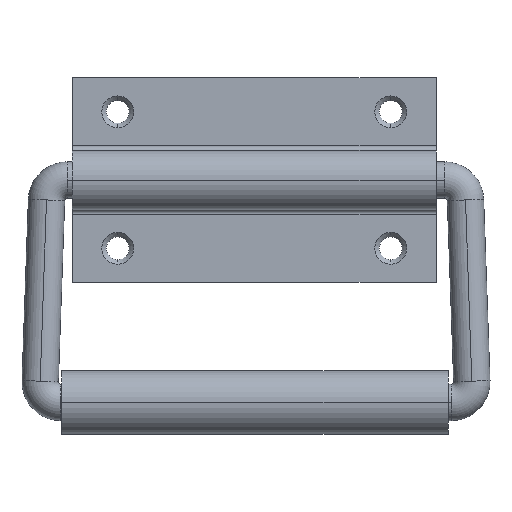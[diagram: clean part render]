
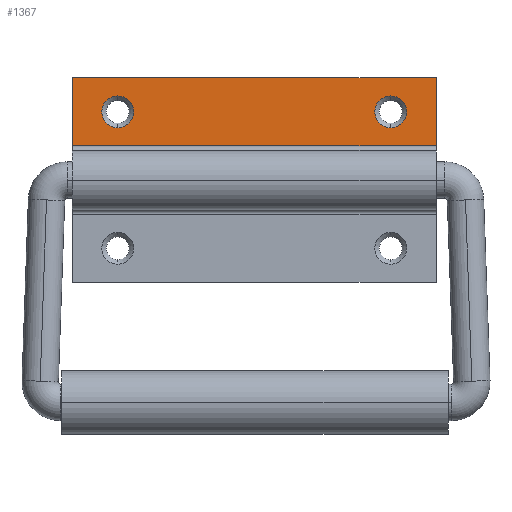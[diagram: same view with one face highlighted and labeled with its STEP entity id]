
A CAD part, left-side view. The second image highlights one B-rep face of the part: STEP entity #1367.
In plain terms, the highlighted planar face has unit normal (-1, 0, 0) as drawn and (0, 1, 0) by its records, which use the part's own axes.
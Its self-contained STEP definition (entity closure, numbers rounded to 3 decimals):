
#435=CARTESIAN_POINT('',(7.0,-88.683,23.007));
#436=VERTEX_POINT('',#435);
#444=CARTESIAN_POINT('',(7.0,-88.683,16.007));
#445=VERTEX_POINT('',#444);
#452=CARTESIAN_POINT('',(7.0,-88.683,19.507));
#453=DIRECTION('',(0.0,-1.0,0.0));
#454=DIRECTION('',(0.0,0.0,1.0));
#455=AXIS2_PLACEMENT_3D('',#452,#453,#454);
#456=CIRCLE('',#455,3.5);
#457=EDGE_CURVE('',#436,#445,#456,.T.);
#509=CARTESIAN_POINT('',(67.0,-88.683,23.007));
#510=VERTEX_POINT('',#509);
#518=CARTESIAN_POINT('',(67.0,-88.683,16.007));
#519=VERTEX_POINT('',#518);
#526=CARTESIAN_POINT('',(67.0,-88.683,19.507));
#527=DIRECTION('',(0.0,-1.0,0.0));
#528=DIRECTION('',(0.0,0.0,1.0));
#529=AXIS2_PLACEMENT_3D('',#526,#527,#528);
#530=CIRCLE('',#529,3.5);
#531=EDGE_CURVE('',#510,#519,#530,.T.);
#774=CARTESIAN_POINT('',(67.0,-88.683,19.507));
#775=DIRECTION('',(0.0,-1.0,0.0));
#776=DIRECTION('',(0.0,0.0,1.0));
#777=AXIS2_PLACEMENT_3D('',#774,#775,#776);
#778=CIRCLE('',#777,3.5);
#779=EDGE_CURVE('',#519,#510,#778,.T.);
#816=CARTESIAN_POINT('',(7.0,-88.683,19.507));
#817=DIRECTION('',(0.0,-1.0,0.0));
#818=DIRECTION('',(0.0,0.0,1.0));
#819=AXIS2_PLACEMENT_3D('',#816,#817,#818);
#820=CIRCLE('',#819,3.5);
#821=EDGE_CURVE('',#445,#436,#820,.T.);
#858=CARTESIAN_POINT('',(77.0,-88.683,27.011));
#859=VERTEX_POINT('',#858);
#867=CARTESIAN_POINT('',(-3.0,-88.683,27.011));
#868=VERTEX_POINT('',#867);
#869=CARTESIAN_POINT('',(77.0,-88.683,27.011));
#870=DIRECTION('',(-1.0,0.0,0.0));
#871=VECTOR('',#870,80.0);
#872=LINE('',#869,#871);
#873=EDGE_CURVE('',#859,#868,#872,.T.);
#1132=CARTESIAN_POINT('',(-3.0,-88.683,12.007));
#1133=VERTEX_POINT('',#1132);
#1134=CARTESIAN_POINT('',(-3.0,-88.683,27.011));
#1135=DIRECTION('',(0.0,0.0,-1.0));
#1136=VECTOR('',#1135,15.003);
#1137=LINE('',#1134,#1136);
#1138=EDGE_CURVE('',#868,#1133,#1137,.T.);
#1213=CARTESIAN_POINT('',(77.0,-88.683,12.007));
#1214=VERTEX_POINT('',#1213);
#1223=CARTESIAN_POINT('',(-3.0,-88.683,12.007));
#1224=DIRECTION('',(1.0,0.0,0.0));
#1225=VECTOR('',#1224,80.0);
#1226=LINE('',#1223,#1225);
#1227=EDGE_CURVE('',#1133,#1214,#1226,.T.);
#1343=CARTESIAN_POINT('',(-3.0,-88.683,23.511));
#1344=DIRECTION('',(0.0,1.0,0.0));
#1345=DIRECTION('',(0.0,0.0,1.0));
#1346=AXIS2_PLACEMENT_3D('',#1343,#1344,#1345);
#1347=PLANE('',#1346);
#1348=ORIENTED_EDGE('',*,*,#873,.F.);
#1349=CARTESIAN_POINT('',(77.0,-88.683,27.011));
#1350=DIRECTION('',(0.0,0.0,-1.0));
#1351=VECTOR('',#1350,15.003);
#1352=LINE('',#1349,#1351);
#1353=EDGE_CURVE('',#859,#1214,#1352,.T.);
#1354=ORIENTED_EDGE('',*,*,#1353,.T.);
#1355=ORIENTED_EDGE('',*,*,#1227,.F.);
#1356=ORIENTED_EDGE('',*,*,#1138,.F.);
#1357=EDGE_LOOP('',(#1348,#1354,#1355,#1356));
#1358=FACE_OUTER_BOUND('',#1357,.T.);
#1359=ORIENTED_EDGE('',*,*,#531,.T.);
#1360=ORIENTED_EDGE('',*,*,#779,.T.);
#1361=EDGE_LOOP('',(#1359,#1360));
#1362=FACE_BOUND('',#1361,.T.);
#1363=ORIENTED_EDGE('',*,*,#457,.T.);
#1364=ORIENTED_EDGE('',*,*,#821,.T.);
#1365=EDGE_LOOP('',(#1363,#1364));
#1366=FACE_BOUND('',#1365,.T.);
#1367=ADVANCED_FACE('',(#1358,#1362,#1366),#1347,.T.);
